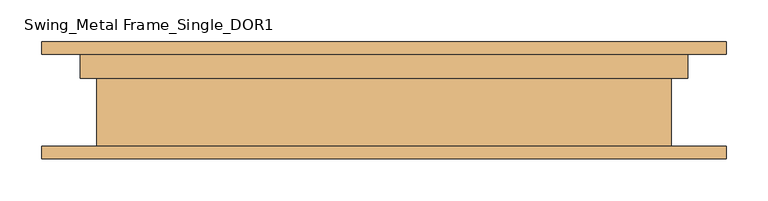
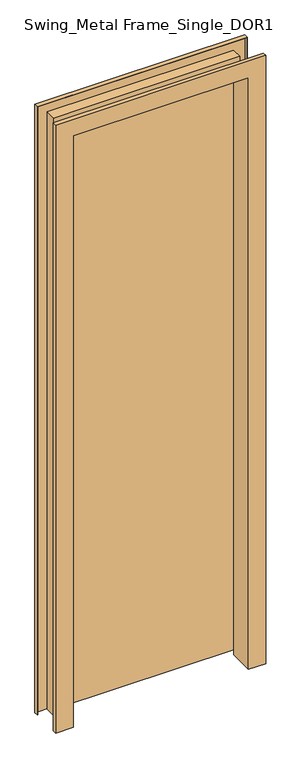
"""IFC4 building model written with IfcOpenShell, lengths in millimetres: door geometry, Swing_Metal Frame_Single_DOR1 : 2040h x 720 (2110x820 STUD)."""

from ifc_helpers import new_model, si_unit, frame, origin, place, context, project, spatial, polyline, outline, extrude, faceted_brep, source, transform, mapped, element, save


def swing_metal_frame_single_dor1_05198c53(model_context):
    return source(origin(), model_context, "Body", "SolidModel", [
        extrude(outline(polyline([(360.0, 70.0), (360.0, 30.0), (-360.0, 30.0), (-360.0, 70.0), (360.0, 70.0)])), frame((0.0, 0.0, 20.0), z_axis=(0.0, 0.0, 1.0), x_axis=(1.0, 0.0, 0.0)), (0.0, 0.0, 1.0), 2440.0),
        faceted_brep([(-410.0, -70.0, 0.0), (-410.0, -55.0, 0.0), (-408.0, -55.0, 0.0), (-408.0, -68.0, 0.0), (-344.0, -68.0, 0.0), (-344.0, 26.0, 0.0), (-364.0, 26.0, 0.0), (-364.0, 68.0, 0.0), (-408.0, 68.0, 0.0), (-408.0, 55.0, 0.0), (-410.0, 55.0, 0.0), (-410.0, 70.0, 0.0), (-362.0, 70.0, 0.0), (-362.0, 28.0, 0.0), (-342.0, 28.0, 0.0), (-342.0, -70.0, 0.0), (-410.0, -70.0, 2510.0), (-410.0, -55.0, 2510.0), (410.0, -55.0, 2510.0), (410.0, -55.0, 0.0), (408.0, -55.0, 0.0), (408.0, -55.0, 2508.0), (-408.0, -55.0, 2508.0), (-408.0, -68.0, 2508.0), (408.0, -68.0, 2508.0), (408.0, -68.0, 0.0), (344.0, -68.0, 0.0), (344.0, -68.0, 2444.0), (-344.0, -68.0, 2444.0), (-344.0, 26.0, 2444.0), (344.0, 26.0, 2444.0), (344.0, 26.0, 0.0), (364.0, 26.0, 0.0), (364.0, 26.0, 2464.0), (-364.0, 26.0, 2464.0), (-364.0, 68.0, 2464.0), (364.0, 68.0, 2464.0), (364.0, 68.0, 0.0), (408.0, 68.0, 0.0), (408.0, 68.0, 2508.0), (-408.0, 68.0, 2508.0), (-408.0, 55.0, 2508.0), (408.0, 55.0, 2508.0), (408.0, 55.0, 0.0), (410.0, 55.0, 0.0), (410.0, 55.0, 2510.0), (-410.0, 55.0, 2510.0), (-410.0, 70.0, 2510.0), (410.0, 70.0, 2510.0), (410.0, 70.0, 0.0), (362.0, 70.0, 0.0), (362.0, 70.0, 2462.0), (-362.0, 70.0, 2462.0), (-362.0, 28.0, 2462.0), (362.0, 28.0, 2462.0), (362.0, 28.0, 0.0), (342.0, 28.0, 0.0), (342.0, 28.0, 2442.0), (-342.0, 28.0, 2442.0), (-342.0, -70.0, 2442.0), (342.0, -70.0, 2442.0), (342.0, -70.0, 0.0), (410.0, -70.0, 0.0), (410.0, -70.0, 2510.0)], [[[0, 1, 2, 3, 4, 5, 6, 7, 8, 9, 10, 11, 12, 13, 14, 15]], [[1, 0, 16, 17]], [[2, 1, 17, 18, 19, 20, 21, 22]], [[3, 2, 22, 23]], [[4, 3, 23, 24, 25, 26, 27, 28]], [[5, 4, 28, 29]], [[6, 5, 29, 30, 31, 32, 33, 34]], [[7, 6, 34, 35]], [[8, 7, 35, 36, 37, 38, 39, 40]], [[9, 8, 40, 41]], [[10, 9, 41, 42, 43, 44, 45, 46]], [[11, 10, 46, 47]], [[12, 11, 47, 48, 49, 50, 51, 52]], [[13, 12, 52, 53]], [[14, 13, 53, 54, 55, 56, 57, 58]], [[15, 14, 58, 59]], [[0, 15, 59, 60, 61, 62, 63, 16]], [[18, 63, 62, 19]], [[62, 61, 56, 55, 50, 49, 44, 43, 38, 37, 32, 31, 26, 25, 20, 19]], [[24, 21, 20, 25]], [[30, 27, 26, 31]], [[36, 33, 32, 37]], [[42, 39, 38, 43]], [[48, 45, 44, 49]], [[54, 51, 50, 55]], [[60, 57, 56, 61]], [[17, 16, 63, 18]], [[23, 22, 21, 24]], [[29, 28, 27, 30]], [[35, 34, 33, 36]], [[41, 40, 39, 42]], [[47, 46, 45, 48]], [[53, 52, 51, 54]], [[59, 58, 57, 60]]]),
    ])


if __name__ == "__main__":
    model = new_model("IFC4")
    model_context = context("Model", 3, world=origin())
    ifc_project = project(units=[si_unit("LENGTHUNIT", "METRE", prefix="MILLI")], contexts=[model_context])
    site = spatial("IfcSite", under=ifc_project)
    building = spatial("IfcBuilding", under=site)
    placement = place(None, origin())
    swing_metal_frame_single_dor1_shape = swing_metal_frame_single_dor1_05198c53(model_context)
    element("IfcDoor", 1, ObjectType="Swing_Metal Frame_Single_DOR1 : 2040h x 720 (2110x820 STUD)", at=placement, inside=building, context=model_context, shape_type="MappedRepresentation", body=[
        mapped(swing_metal_frame_single_dor1_shape, transform((0.0, 0.0, 0.0), x_axis=(1.0, 0.0, 0.0), y_axis=(0.0, 1.0, 0.0), z_axis=(0.0, 0.0, 1.0))),
    ])
    save(model, "model.ifc")
